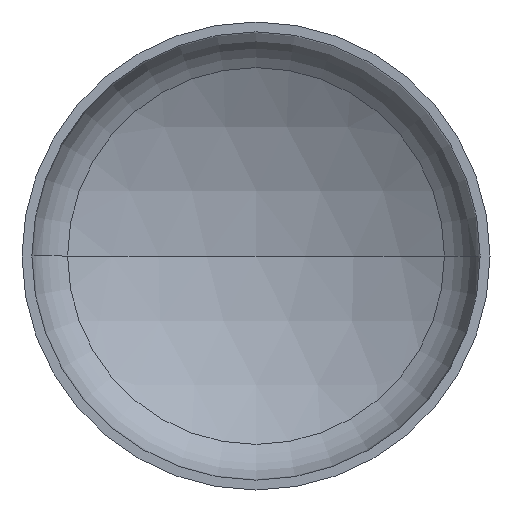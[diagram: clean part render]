
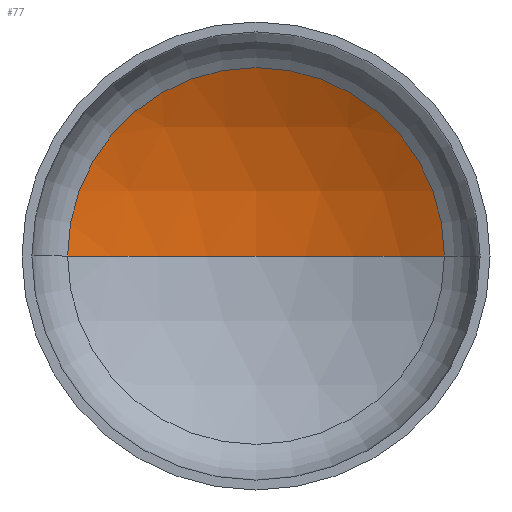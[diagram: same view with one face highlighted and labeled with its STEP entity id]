
A CAD part, front view. The second image highlights one B-rep face of the part: STEP entity #77.
In plain terms, the highlighted spherical face has radius 4400 mm.
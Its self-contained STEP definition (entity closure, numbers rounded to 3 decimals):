
#50 = EDGE_CURVE ( 'NONE', #367, #345, #248, .T. ) ;
#54 = DIRECTION ( 'NONE',  ( 0., 0., 1. ) ) ;
#55 = EDGE_CURVE ( 'NONE', #299, #367, #403, .T. ) ;
#56 = DIRECTION ( 'NONE',  ( 0., 0., -1. ) ) ;
#58 = EDGE_CURVE ( 'NONE', #299, #345, #86, .T. ) ;
#77 = ADVANCED_FACE ( 'NONE', ( #78 ), #301, .F. ) ;
#78 = FACE_OUTER_BOUND ( 'NONE', #227, .T. ) ;
#86 = CIRCLE ( 'NONE', #154, 4400. ) ;
#89 = CARTESIAN_POINT ( 'NONE',  ( 0., 805.206, 0. ) ) ;
#97 = CARTESIAN_POINT ( 'NONE',  ( 0., 1402.948, 0. ) ) ;
#114 = AXIS2_PLACEMENT_3D ( 'NONE', #89, #294, #120 ) ;
#120 = DIRECTION ( 'NONE',  ( 1., 0., 0. ) ) ;
#137 = AXIS2_PLACEMENT_3D ( 'NONE', #353, #178, #385 ) ;
#152 = CARTESIAN_POINT ( 'NONE',  ( 0., -2997.052, 0. ) ) ;
#154 = AXIS2_PLACEMENT_3D ( 'NONE', #237, #54, #265 ) ;
#171 = ORIENTED_EDGE ( 'NONE', *, *, #55, .T. ) ;
#178 = DIRECTION ( 'NONE',  ( 0., 0., -1. ) ) ;
#227 = EDGE_LOOP ( 'NONE', ( #286, #171, #240 ) ) ;
#237 = CARTESIAN_POINT ( 'NONE',  ( 0., -2997.052, 0. ) ) ;
#240 = ORIENTED_EDGE ( 'NONE', *, *, #50, .T. ) ;
#248 = CIRCLE ( 'NONE', #114, 2214.233 ) ;
#249 = CARTESIAN_POINT ( 'NONE',  ( -2214.233, 805.206, 0. ) ) ;
#253 = AXIS2_PLACEMENT_3D ( 'NONE', #152, #56, #356 ) ;
#265 = DIRECTION ( 'NONE',  ( 1., 0., 0. ) ) ;
#286 = ORIENTED_EDGE ( 'NONE', *, *, #58, .F. ) ;
#294 = DIRECTION ( 'NONE',  ( 0., -1., 0. ) ) ;
#299 = VERTEX_POINT ( 'NONE', #97 ) ;
#301 = SPHERICAL_SURFACE ( 'NONE', #253, 4400. ) ;
#345 = VERTEX_POINT ( 'NONE', #249 ) ;
#353 = CARTESIAN_POINT ( 'NONE',  ( 0., -2997.052, 0. ) ) ;
#356 = DIRECTION ( 'NONE',  ( -1., 0., 0. ) ) ;
#365 = CARTESIAN_POINT ( 'NONE',  ( 2214.233, 805.206, 0. ) ) ;
#367 = VERTEX_POINT ( 'NONE', #365 ) ;
#385 = DIRECTION ( 'NONE',  ( -1., 0., 0. ) ) ;
#403 = CIRCLE ( 'NONE', #137, 4400. ) ;
